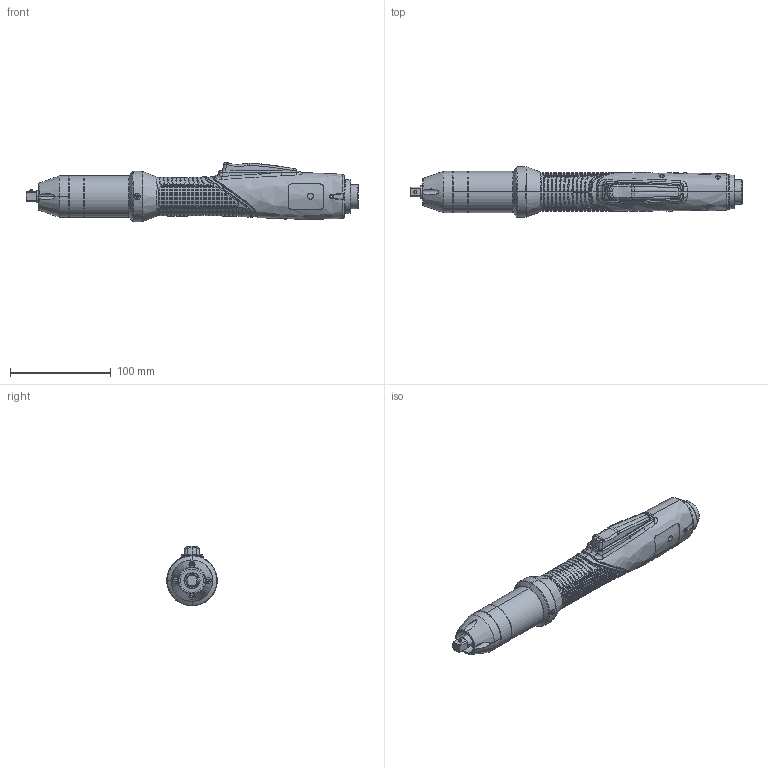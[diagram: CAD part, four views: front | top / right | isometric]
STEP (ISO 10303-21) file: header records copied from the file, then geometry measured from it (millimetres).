
FILE_DESCRIPTION (( 'STEP AP203' ), '1' );
FILE_NAME ('MDT3211,3216,3220,3224,3236-Q-L.STEP', '2021-10-25T05:54:05', ( '' ), ( '' ), 'SwSTEP 2.0', 'SolidWorks 2020', '' );
FILE_SCHEMA (( 'CONFIG_CONTROL_DESIGN' ));
Length unit declared in the file: millimetre
Products named in the file (1): MDT3211,3216,3220,3224,3236-Q-L
Bounding box: 329.29 x 49.99 x 59.12 mm (x, y, z)
Surface area: 57112.8 mm2 (no closed solid volume)
Topology: 0 solids, 31 shells, 2650 faces, 7368 edges, 5001 vertices
Faces by surface type: plane 1712, bspline 653, cylinder 245, cone 40
Entity records: 145358 total; most frequent: CARTESIAN_POINT 90309, ORIENTED_EDGE 13424, EDGE_CURVE 7360, DIRECTION 6430, B_SPLINE_CURVE_WITH_KNOTS 5210, VERTEX_POINT 5001, EDGE_LOOP 3073, ADVANCED_FACE 2650
